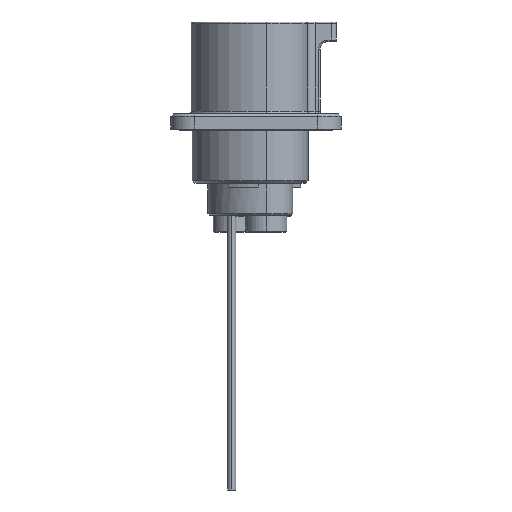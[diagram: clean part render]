
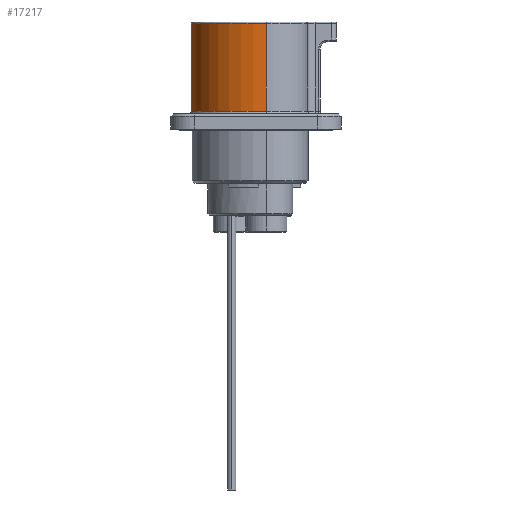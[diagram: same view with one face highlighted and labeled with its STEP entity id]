
A CAD part, left-side view. The second image highlights one B-rep face of the part: STEP entity #17217.
In plain terms, the highlighted cylindrical face has radius 14.55 mm (diameter 29.1 mm), a partial arc.
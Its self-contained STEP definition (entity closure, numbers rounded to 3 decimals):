
#206 = DIRECTION ( 'NONE',  ( 0., 0., -1. ) ) ;
#285 = VERTEX_POINT ( 'NONE', #23888 ) ;
#509 = ORIENTED_EDGE ( 'NONE', *, *, #6069, .T. ) ;
#1069 = CARTESIAN_POINT ( 'NONE',  ( -22.352, -0.61, 35. ) ) ;
#1264 = EDGE_CURVE ( 'NONE', #13908, #8067, #9662, .T. ) ;
#3074 = CYLINDRICAL_SURFACE ( 'NONE', #9551, 14.55 ) ;
#4753 = EDGE_LOOP ( 'NONE', ( #9997, #31909, #27384, #509 ) ) ;
#6069 = EDGE_CURVE ( 'NONE', #8067, #29741, #8685, .T. ) ;
#8067 = VERTEX_POINT ( 'NONE', #27401 ) ;
#8642 = EDGE_CURVE ( 'NONE', #29741, #285, #14099, .T. ) ;
#8685 = CIRCLE ( 'NONE', #22641, 14.55 ) ;
#9551 = AXIS2_PLACEMENT_3D ( 'NONE', #25258, #24941, #17647 ) ;
#9662 = LINE ( 'NONE', #16129, #21728 ) ;
#9997 = ORIENTED_EDGE ( 'NONE', *, *, #8642, .T. ) ;
#10296 = DIRECTION ( 'NONE',  ( 1., 0., 0. ) ) ;
#13908 = VERTEX_POINT ( 'NONE', #33236 ) ;
#14099 = LINE ( 'NONE', #29392, #16517 ) ;
#15186 = EDGE_CURVE ( 'NONE', #285, #13908, #22228, .T. ) ;
#15508 = DIRECTION ( 'NONE',  ( 0., 0., 1. ) ) ;
#16129 = CARTESIAN_POINT ( 'NONE',  ( 6.748, -0.61, -2.499 ) ) ;
#16517 = VECTOR ( 'NONE', #16840, 1000. ) ;
#16840 = DIRECTION ( 'NONE',  ( 0., 0., 1. ) ) ;
#17217 = ADVANCED_FACE ( 'NONE', ( #32460 ), #3074, .T. ) ;
#17647 = DIRECTION ( 'NONE',  ( 1., 0., 0. ) ) ;
#19858 = DIRECTION ( 'NONE',  ( 1., 0., 0. ) ) ;
#21728 = VECTOR ( 'NONE', #206, 1000. ) ;
#22228 = CIRCLE ( 'NONE', #23273, 14.55 ) ;
#22641 = AXIS2_PLACEMENT_3D ( 'NONE', #25242, #15508, #10296 ) ;
#22650 = CARTESIAN_POINT ( 'NONE',  ( -7.802, -0.61, 52. ) ) ;
#23273 = AXIS2_PLACEMENT_3D ( 'NONE', #22650, #30176, #19858 ) ;
#23888 = CARTESIAN_POINT ( 'NONE',  ( -22.352, -0.61, 52. ) ) ;
#24941 = DIRECTION ( 'NONE',  ( 0., 0., 1. ) ) ;
#25242 = CARTESIAN_POINT ( 'NONE',  ( -7.802, -0.61, 35. ) ) ;
#25258 = CARTESIAN_POINT ( 'NONE',  ( -7.802, -0.61, -2.499 ) ) ;
#27384 = ORIENTED_EDGE ( 'NONE', *, *, #1264, .T. ) ;
#27401 = CARTESIAN_POINT ( 'NONE',  ( 6.748, -0.61, 35. ) ) ;
#29392 = CARTESIAN_POINT ( 'NONE',  ( -22.352, -0.61, -2.499 ) ) ;
#29741 = VERTEX_POINT ( 'NONE', #1069 ) ;
#30176 = DIRECTION ( 'NONE',  ( 0., 0., -1. ) ) ;
#31909 = ORIENTED_EDGE ( 'NONE', *, *, #15186, .T. ) ;
#32460 = FACE_OUTER_BOUND ( 'NONE', #4753, .T. ) ;
#33236 = CARTESIAN_POINT ( 'NONE',  ( 6.748, -0.61, 52. ) ) ;
